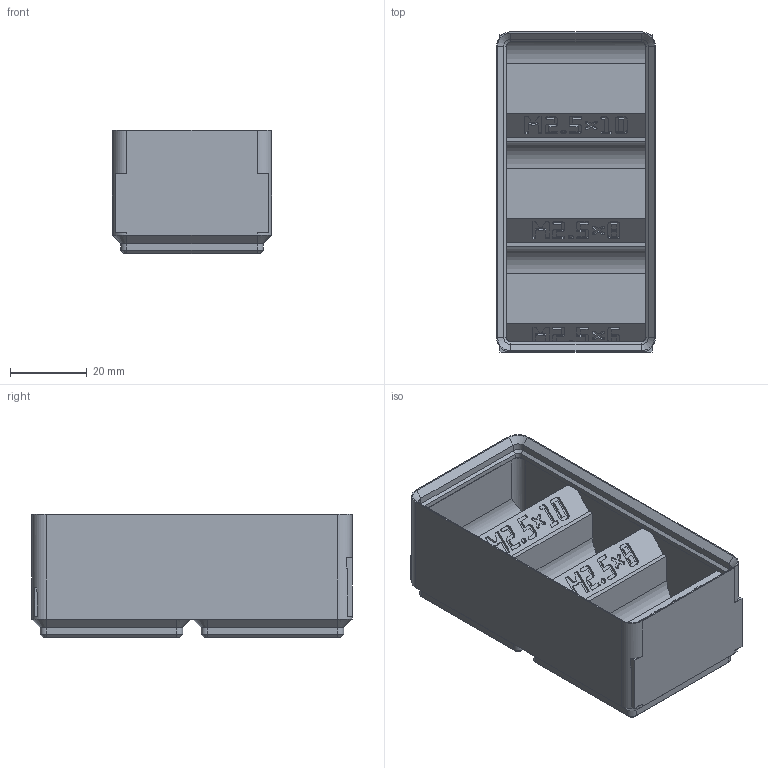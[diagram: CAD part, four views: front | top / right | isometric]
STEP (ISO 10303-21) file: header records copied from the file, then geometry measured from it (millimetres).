
FILE_DESCRIPTION(('Open CASCADE Model'),'2;1');
FILE_NAME('Open CASCADE Shape Model','2026-11-03T10:59:31',('Author'),( 'Open CASCADE'),'Open CASCADE STEP processor 8.0','build123d', 'Unknown');
FILE_SCHEMA(('AUTOMOTIVE_DESIGN { 1 0 10303 214 1 1 1 1 }'));
Products named in the file (1): COMPOUND
Bounding box: 41.5 x 83.5 x 32.1 mm (x, y, z)
Volume: 31170 mm3; surface area: 24786.3 mm2
Topology: 1 solids, 1 shells, 1943 faces, 5671 edges, 3758 vertices
Faces by surface type: plane 1884, cylinder 31, cone 28
Entity records: 136547 total; most frequent: CARTESIAN_POINT 23408, DIRECTION 20605, LINE 16501, VECTOR 16501, ORIENTED_EDGE 11342, PCURVE 11342, DEFINITIONAL_REPRESENTATION 11342, EDGE_CURVE 5671
